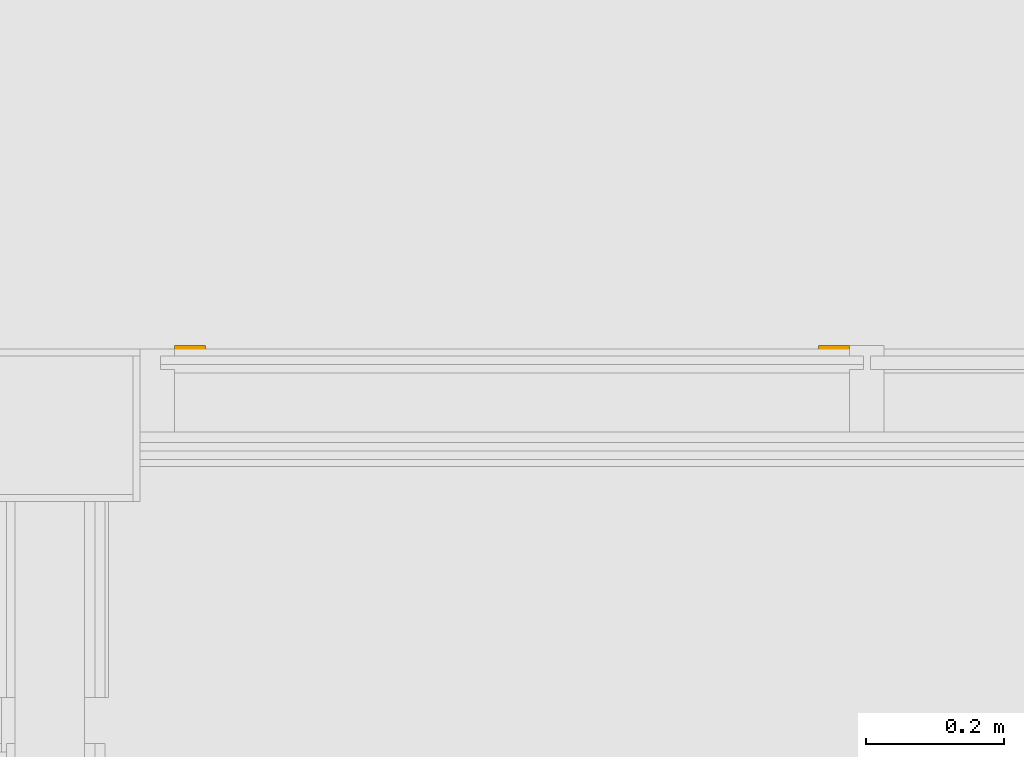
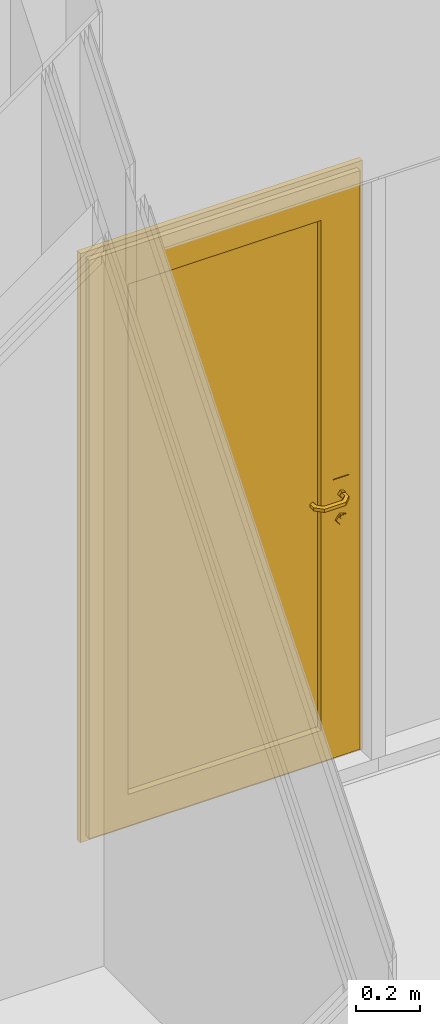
# One storey, part 247 of 260: 1 door, 1 element without a shape of its own.
"""IFC2X3 building model written with IfcOpenShell, lengths in millimetres."""

from ifc_helpers import new_model, entity, si_unit, converted_unit, derived_unit, money_unit, direction, frame, origin_with_axes, place, context, subcontext, project, spatial, open_shell, faceted_brep, surface_model, material, material_list, type_object, element, aggregate, save


model = new_model("IFC2X3")

# Units and contexts
model_context = context("Model", 3, precision=0.01, world=origin_with_axes(), true_north=direction((0.0, 1.0)))
body_context = subcontext(model_context, "Body", "Model", "MODEL_VIEW")
ifc_project = project(units=[si_unit("LENGTHUNIT", "METRE", prefix="MILLI"), si_unit("AREAUNIT", "SQUARE_METRE"), si_unit("VOLUMEUNIT", "CUBIC_METRE"), converted_unit("PLANEANGLEUNIT", "DEGREE", entity("IfcPlaneAngleMeasure", 0.0174532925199), si_unit("PLANEANGLEUNIT", "RADIAN"), dimensions=[0, 0, 0, 0, 0, 0, 0]), money_unit("EUR"), converted_unit("TIMEUNIT", "Year", entity("IfcTimeMeasure", 31556926.0), si_unit("TIMEUNIT", "SECOND"), dimensions=[0, 0, 1, 0, 0, 0, 0]), si_unit("MASSUNIT", "GRAM", prefix="KILO"), si_unit("THERMODYNAMICTEMPERATUREUNIT", "DEGREE_CELSIUS"), si_unit("LUMINOUSINTENSITYUNIT", "LUMEN"), si_unit("ENERGYUNIT", "JOULE", prefix="MEGA"), derived_unit("THERMALCONDUCTANCEUNIT", [(si_unit("POWERUNIT", "WATT"), 1), (si_unit("LENGTHUNIT", "METRE"), -1), (si_unit("THERMODYNAMICTEMPERATUREUNIT", "KELVIN"), -1)]), derived_unit("SPECIFICHEATCAPACITYUNIT", [(si_unit("ENERGYUNIT", "JOULE"), 1), (si_unit("MASSUNIT", "GRAM", prefix="KILO"), -1), (si_unit("THERMODYNAMICTEMPERATUREUNIT", "KELVIN"), -1)]), derived_unit("MASSDENSITYUNIT", [(si_unit("MASSUNIT", "GRAM", prefix="KILO"), 1), (si_unit("VOLUMEUNIT", "CUBIC_METRE"), -1)])], contexts=[model_context])

# Site, building, storey
site_placement = place(None, origin_with_axes())
site = spatial("IfcSite", under=ifc_project, at=site_placement, Name="Kolde pst 67a", CompositionType="ELEMENT")
building_placement = place(site_placement, origin_with_axes())
building = spatial("IfcBuilding", under=site, at=building_placement, Name="Riigigümnaasium", CompositionType="ELEMENT")
storey_placement = place(building_placement, origin_with_axes())
storey = spatial("IfcBuildingStorey", under=building, at=storey_placement, Name="1. korrus", CompositionType="ELEMENT", Elevation=0.0)

# Curtain wall, door
curtain_wall_type = type_object("IfcCurtainWallType", Name="Curtain Wall Type", PredefinedType="NOTDEFINED")
curtain_wall_placement = place(storey_placement, frame((68175.8878955, 24430.0011103, -4.39663905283e-06), z_axis=(0.0, 0.0, 1.0), x_axis=(1.0, 0.0, 0.0)))
curtain_wall = element("IfcCurtainWall", 1, at=curtain_wall_placement, inside=storey, type_object=curtain_wall_type, Name="KLAASSEIN")
ifc_material_1 = material(Name="_METALL - alumiinium")
ifc_material_2 = material(Name="_KLAAS - kirgas")
ifc_material_3 = material(Name="_METALL - roostevaba terasleht, harjatud, 1mm")
ifc_material_list = material_list([ifc_material_1, ifc_material_2, ifc_material_3])
door_style = type_object("IfcDoorStyle", Name="1015 x 2240 x 20", ConstructionType="NOTDEFINED", OperationType="SINGLE_SWING_RIGHT", ParameterTakesPrecedence=False, Sizeable=False)
door_placement = place(curtain_wall_placement, frame((0.0, 0.0, 1150.0), z_axis=(0.0, 0.0, 1.0), x_axis=(-1.0, 7.27337343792e-07, 0.0)))
door = element("IfcDoor", 2, at=door_placement, type_object=door_style, material=ifc_material_list, Name="Siseuks", ObjectType="DOOR", OverallHeight=2200.0, OverallWidth=975.0, context=body_context, shape_type="SurfaceModel", body=[
    faceted_brep([(-499.999998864, -20.0007455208, -1099.99999851), (-499.999995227, -25.0007455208, -1099.99999851), (-499.999995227, -25.0007455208, 1099.99999851), (-499.999998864, -20.0007455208, 1099.99999851), (-454.999998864, -20.0007127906, -1099.99999851), (-454.999995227, -25.0007127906, -1099.99999851), (-454.999995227, -25.0007127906, 1054.99999851), (-454.999998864, -20.0007127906, 1054.99999851)], [[[0, 1, 2, 3]], [[4, 5, 1, 0]], [[1, 5, 6, 2]], [[3, 2, 6, 7]], [[0, 3, 7, 4]], [[7, 6, 5, 4]]]),
    faceted_brep([(475.000013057, -20.0000363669, 1099.99999851), (475.000016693, -25.0000363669, 1099.99999851), (430.000016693, -25.000069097, 1054.99999851), (430.000013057, -20.000069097, 1054.99999851), (-499.999998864, -20.0007455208, 1099.99999851), (-499.999995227, -25.0007455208, 1099.99999851), (-454.999995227, -25.0007127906, 1054.99999851), (-454.999998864, -20.0007127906, 1054.99999851)], [[[0, 1, 2, 3]], [[4, 5, 1, 0]], [[1, 5, 6, 2]], [[3, 2, 6, 7]], [[0, 3, 7, 4]], [[7, 6, 5, 4]]]),
    faceted_brep([(475.000013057, -20.0000363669, -1099.99999851), (475.000016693, -25.0000363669, -1099.99999851), (430.000016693, -25.000069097, -1099.99999851), (430.000013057, -20.000069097, -1099.99999851), (475.000013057, -20.0000363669, 1099.99999851), (475.000016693, -25.0000363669, 1099.99999851), (430.000016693, -25.000069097, 1054.99999851), (430.000013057, -20.000069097, 1054.99999851)], [[[0, 1, 2, 3]], [[4, 5, 1, 0]], [[1, 5, 6, 2]], [[3, 2, 6, 7]], [[0, 3, 7, 4]], [[7, 6, 5, 4]]]),
    faceted_brep([(-500.000035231, 29.9992544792, -1099.99999851), (-499.999998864, -20.0007455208, -1099.99999851), (-499.999998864, -20.0007455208, 1099.99999851), (-500.000035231, 29.9992544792, 1099.99999851), (-480.000035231, 29.999269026, -1099.99999851), (-479.999998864, -20.000730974, -1099.99999851), (-479.999998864, -20.000730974, 1079.99999851), (-480.000035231, 29.999269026, 1079.99999851)], [[[0, 1, 2, 3]], [[4, 5, 1, 0]], [[1, 5, 6, 2]], [[3, 2, 6, 7]], [[0, 3, 7, 4]], [[7, 6, 5, 4]]]),
    faceted_brep([(474.99997669, 29.9999636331, 1099.99999851), (475.000013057, -20.0000363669, 1099.99999851), (455.000013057, -20.0000509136, 1079.99999851), (454.99997669, 29.9999490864, 1079.99999851), (-500.000035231, 29.9992544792, 1099.99999851), (-499.999998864, -20.0007455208, 1099.99999851), (-479.999998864, -20.000730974, 1079.99999851), (-480.000035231, 29.999269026, 1079.99999851)], [[[0, 1, 2, 3]], [[4, 5, 1, 0]], [[1, 5, 6, 2]], [[3, 2, 6, 7]], [[0, 3, 7, 4]], [[7, 6, 5, 4]]]),
    faceted_brep([(474.99997669, 29.9999636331, -1099.99999851), (475.000013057, -20.0000363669, -1099.99999851), (455.000013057, -20.0000509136, -1099.99999851), (454.99997669, 29.9999490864, -1099.99999851), (474.99997669, 29.9999636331, 1099.99999851), (475.000013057, -20.0000363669, 1099.99999851), (455.000013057, -20.0000509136, 1079.99999851), (454.99997669, 29.9999490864, 1079.99999851)], [[[0, 1, 2, 3]], [[4, 5, 1, 0]], [[1, 5, 6, 2]], [[3, 2, 6, 7]], [[0, 3, 7, 4]], [[7, 6, 5, 4]]]),
    faceted_brep([(494.999998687, 9.99997817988, -1120.00000596), (495.000013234, -10.0000218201, -1120.00000596), (-519.999979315, -10.0007600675, -1120.00000596), (-519.999993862, 9.99923993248, -1120.00000596), (474.999991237, 9.99996363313, -1099.99999851), (475.000005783, -10.0000363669, -1099.99999851), (-500.000006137, -10.0007455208, -1099.99999851), (-500.000020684, 9.99925447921, -1099.99999851)], [[[0, 1, 2, 3]], [[4, 5, 1, 0]], [[1, 5, 6, 2]], [[3, 2, 6, 7]], [[0, 3, 7, 4]], [[7, 6, 5, 4]]]),
    faceted_brep([(-519.999993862, 9.99923993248, -1120.00000596), (-519.999979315, -10.0007600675, -1120.00000596), (-519.999979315, -10.0007600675, 1120.00000596), (-519.999993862, 9.99923993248, 1120.00000596), (-500.000020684, 9.99925447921, -1099.99999851), (-500.000006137, -10.0007455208, -1099.99999851), (-500.000006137, -10.0007455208, 1099.99999851), (-500.000020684, 9.99925447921, 1099.99999851)], [[[0, 1, 2, 3]], [[4, 5, 1, 0]], [[1, 5, 6, 2]], [[3, 2, 6, 7]], [[0, 3, 7, 4]], [[7, 6, 5, 4]]]),
    faceted_brep([(-519.999993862, 9.99923993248, 1120.00000596), (-519.999979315, -10.0007600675, 1120.00000596), (495.000013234, -10.0000218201, 1120.00000596), (494.999998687, 9.99997817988, 1120.00000596), (-500.000020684, 9.99925447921, 1099.99999851), (-500.000006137, -10.0007455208, 1099.99999851), (475.000005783, -10.0000363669, 1099.99999851), (474.999991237, 9.99996363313, 1099.99999851)], [[[0, 1, 2, 3]], [[4, 5, 1, 0]], [[1, 5, 6, 2]], [[3, 2, 6, 7]], [[0, 3, 7, 4]], [[7, 6, 5, 4]]]),
    faceted_brep([(494.999998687, 9.99997817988, 1120.00000596), (495.000013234, -10.0000218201, 1120.00000596), (495.000013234, -10.0000218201, -1120.00000596), (494.999998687, 9.99997817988, -1120.00000596), (474.999991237, 9.99996363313, 1099.99999851), (475.000005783, -10.0000363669, 1099.99999851), (475.000005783, -10.0000363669, -1099.99999851), (474.999991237, 9.99996363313, -1099.99999851)], [[[0, 1, 2, 3]], [[4, 5, 1, 0]], [[1, 5, 6, 2]], [[3, 2, 6, 7]], [[0, 3, 7, 4]], [[7, 6, 5, 4]]]),
    faceted_brep([(335.000013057, -20.0001381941, -979.99999851), (335.000013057, -20.0001381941, 959.99999851), (334.99997669, 29.9998618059, 959.99999851), (334.99997669, 29.9998618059, -979.99999851), (455.000013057, -20.0000509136, -1099.99999851), (455.000013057, -20.0000509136, 1079.99999851), (454.99997669, 29.9999490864, 1079.99999851), (454.99997669, 29.9999490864, -1099.99999851)], [[[0, 1, 2, 3]], [[0, 4, 5, 1]], [[1, 5, 6, 2]], [[3, 2, 6, 7]], [[4, 0, 3, 7]], [[5, 4, 7, 6]]]),
    faceted_brep([(-479.999998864, -20.000730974, -1099.99999851), (-479.999998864, -20.000730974, 1079.99999851), (-480.000035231, 29.999269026, 1079.99999851), (-480.000035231, 29.999269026, -1099.99999851), (-359.999998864, -20.0006436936, -979.99999851), (-359.999998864, -20.0006436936, 959.99999851), (-360.000035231, 29.9993563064, 959.99999851), (-360.000035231, 29.9993563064, -979.99999851)], [[[0, 1, 2, 3]], [[0, 4, 5, 1]], [[1, 5, 6, 2]], [[3, 2, 6, 7]], [[4, 0, 3, 7]], [[5, 4, 7, 6]]]),
    faceted_brep([(-479.999998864, -20.000730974, -1099.99999851), (-359.999998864, -20.0006436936, -979.99999851), (-360.000035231, 29.9993563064, -979.99999851), (-480.000035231, 29.999269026, -1099.99999851), (455.000013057, -20.0000509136, -1099.99999851), (335.000013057, -20.0001381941, -979.99999851), (334.99997669, 29.9998618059, -979.99999851), (454.99997669, 29.9999490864, -1099.99999851)], [[[0, 1, 2, 3]], [[0, 4, 5, 1]], [[1, 5, 6, 2]], [[3, 2, 6, 7]], [[4, 0, 3, 7]], [[5, 4, 7, 6]]]),
    faceted_brep([(455.000013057, -20.0000509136, 1079.99999851), (335.000013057, -20.0001381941, 959.99999851), (334.99997669, 29.9998618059, 959.99999851), (454.99997669, 29.9999490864, 1079.99999851), (-479.999998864, -20.000730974, 1079.99999851), (-359.999998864, -20.0006436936, 959.99999851), (-360.000035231, 29.9993563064, 959.99999851), (-480.000035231, 29.999269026, 1079.99999851)], [[[0, 1, 2, 3]], [[0, 4, 5, 1]], [[1, 5, 6, 2]], [[3, 2, 6, 7]], [[4, 0, 3, 7]], [[5, 4, 7, 6]]]),
    faceted_brep([(335.000005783, -10.0001381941, -979.99999851), (-360.000006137, -10.0006436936, -979.99999851), (-360.000017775, 5.99935630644, -979.99999851), (334.999994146, 5.9998618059, -979.99999851), (335.000005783, -10.0001381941, 959.99999851), (-360.000006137, -10.0006436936, 959.99999851), (-360.000017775, 5.99935630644, 959.99999851), (334.999994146, 5.9998618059, 959.99999851)], [[[0, 1, 2, 3]], [[0, 4, 5, 1]], [[1, 5, 6, 2]], [[3, 2, 6, 7]], [[4, 0, 3, 7]], [[5, 4, 7, 6]]]),
    faceted_brep([(-458.500035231, 29.9992846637, -39.9999985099), (-401.500035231, 29.9993261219, -39.9999985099), (-401.500037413, 32.9993261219, -39.9999985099), (-458.500037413, 32.9992846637, -39.9999985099), (-458.500035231, 29.9992846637, -229.99999851), (-401.500035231, 29.9993261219, -229.99999851), (-401.500037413, 32.9993261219, -229.99999851), (-458.500037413, 32.9992846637, -229.99999851)], [[[0, 1, 2, 3]], [[0, 4, 5, 1]], [[1, 5, 6, 2]], [[3, 2, 6, 7]], [[4, 0, 3, 7]], [[5, 4, 7, 6]]]),
    faceted_brep([(-426.291840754, 42.9993080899, -111.412676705), (-418.000044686, 42.9993141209, -99.9999985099), (-417.000037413, 32.9993148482, -99.9999985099), (-425.982816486, 32.9993083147, -112.363733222), (-439.708248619, 42.9992983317, -107.053421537), (-439.708248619, 42.9992983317, -92.9465754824), (-426.291840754, 42.9993080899, -88.5873203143), (-425.982816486, 32.9993083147, -87.636263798), (-440.51725834, 32.9992977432, -92.3587902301), (-440.51725834, 32.9992977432, -107.64120679)], [[[0, 1, 2, 3]], [[1, 0, 4, 5, 6]], [[1, 6, 7, 2]], [[2, 7, 8, 9, 3]], [[4, 0, 3, 9]], [[5, 4, 9, 8]], [[6, 5, 8, 7]]]),
    faceted_brep([(-423.819700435, 36.999309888, -214.021128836), (-410.000040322, 36.9993199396, -194.99999851), (-408.000037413, 32.9993213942, -194.99999851), (-423.201663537, 32.9993103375, -215.923241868), (-446.18038021, 36.9992936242, -206.755703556), (-446.18038021, 36.9992936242, -183.244293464), (-423.819700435, 36.999309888, -175.978868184), (-423.201663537, 32.9993103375, -174.076755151), (-447.798411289, 32.9992924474, -182.068722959), (-447.798411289, 32.9992924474, -207.93127406)], [[[0, 1, 2, 3]], [[1, 0, 4, 5, 6]], [[1, 6, 7, 2]], [[2, 7, 8, 9, 3]], [[4, 0, 3, 9]], [[5, 4, 9, 8]], [[6, 5, 8, 7]]]),
    faceted_brep([(-427.836922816, 38.9993069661, -192.657394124), (-423.000041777, 38.9993104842, -185.99999851), (-422.000040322, 36.9993112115, -185.99999851), (-427.527904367, 36.9993071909, -193.60845064), (-435.663160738, 38.9993012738, -190.114495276), (-435.663160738, 38.9993012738, -181.885501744), (-427.836922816, 38.9993069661, -179.342602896), (-427.527904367, 36.9993071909, -178.39154638), (-436.472176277, 36.9993006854, -181.297716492), (-436.472176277, 36.9993006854, -190.702280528)], [[[0, 1, 2, 3]], [[1, 0, 4, 5, 6]], [[1, 6, 7, 2]], [[2, 7, 8, 9, 3]], [[4, 0, 3, 9]], [[5, 4, 9, 8]], [[6, 5, 8, 7]]]),
    surface_model("IfcShellBasedSurfaceModel", [(-420.000044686, 42.9993126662, -99.9999985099), (-426.909874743, 42.9993076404, -109.510563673), (-426.909888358, 61.7193173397, -109.510563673), (-420.00005622, 58.8571770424, -99.9999985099), (-438.09021463, 42.9992995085, -105.877851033), (-438.090231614, 66.3503576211, -105.877851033), (-408.720081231, 79.9091509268, -109.510563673), (-405.857930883, 72.9993229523, -99.9999985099), (-426.909874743, 42.9993076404, -90.4894333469), (-426.909888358, 61.7193173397, -90.4894333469), (-438.09021463, 42.9992995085, -94.122145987), (-438.090231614, 66.3503576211, -94.122145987), (-413.351137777, 91.0894874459, -105.877851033), (-341.280061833, 79.9091999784, -109.510563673), (-344.14220213, 72.9993678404, -99.9999985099), (-408.720081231, 79.9091509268, -90.4894333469), (-413.351137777, 91.0894874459, -94.122145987), (-336.649021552, 91.0895432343, -105.877851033), (-323.090228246, 61.7193928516, -109.510563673), (-330.00005622, 58.8572425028, -99.9999985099), (-341.280061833, 79.9091999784, -90.4894333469), (-336.649021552, 91.0895432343, -94.122145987), (-311.909891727, 66.3504493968, -105.877851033), (-323.09021463, 42.9993831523, -109.510563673), (-330.000044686, 42.9993781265, -99.9999985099), (-323.090228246, 61.7193928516, -90.4894333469), (-311.909891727, 66.3504493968, -94.122145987), (-311.909874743, 42.9993912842, -105.877851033), (-311.909874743, 42.9993912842, -94.122145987), (-323.09021463, 42.9993831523, -90.4894333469)], [open_shell([[[0, 1, 2, 3]], [[1, 4, 5, 2]], [[3, 2, 6, 7]], [[8, 0, 3, 9]], [[4, 10, 11, 5]], [[2, 5, 12, 6]], [[7, 6, 13, 14]], [[9, 3, 7, 15]], [[10, 8, 9, 11]], [[5, 11, 16, 12]], [[6, 12, 17, 13]], [[14, 13, 18, 19]], [[15, 7, 14, 20]], [[11, 9, 15, 16]], [[12, 16, 21, 17]], [[13, 17, 22, 18]], [[19, 18, 23, 24]], [[20, 14, 19, 25]], [[16, 15, 20, 21]], [[17, 21, 26, 22]], [[18, 22, 27, 23]], [[24, 23, 27, 28, 29]], [[25, 19, 24, 29]], [[21, 20, 25, 26]], [[22, 26, 28, 27]], [[26, 25, 29, 28]]])]),
    faceted_brep([(-458.499998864, -20.0007153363, -39.9999985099), (-458.499996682, -23.0007153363, -39.9999985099), (-401.499996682, -23.0006738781, -39.9999985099), (-401.499998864, -20.0006738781, -39.9999985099), (-458.499998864, -20.0007153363, -229.99999851), (-458.499996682, -23.0007153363, -229.99999851), (-401.499996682, -23.0006738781, -229.99999851), (-401.499998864, -20.0006738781, -229.99999851)], [[[0, 1, 2, 3]], [[4, 5, 1, 0]], [[1, 5, 6, 2]], [[3, 2, 6, 7]], [[0, 3, 7, 4]], [[7, 6, 5, 4]]]),
    faceted_brep([(-426.291785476, -33.0006919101, -111.412676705), (-425.982775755, -23.0006916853, -112.363733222), (-416.999996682, -23.0006851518, -99.9999985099), (-417.999989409, -33.0006858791, -99.9999985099), (-439.708193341, -33.0007016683, -107.053421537), (-440.517217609, -23.0007022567, -107.64120679), (-440.517217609, -23.0007022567, -92.3587902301), (-425.982775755, -23.0006916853, -87.636263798), (-426.291785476, -33.0006919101, -88.5873203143), (-439.708193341, -33.0007016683, -92.9465754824)], [[[0, 1, 2, 3]], [[4, 5, 1, 0]], [[2, 1, 5, 6, 7]], [[3, 2, 7, 8]], [[3, 8, 9, 4, 0]], [[9, 6, 5, 4]], [[8, 7, 6, 9]]]),
    faceted_brep([(-423.819653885, -27.000690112, -214.021128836), (-423.201622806, -23.0006896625, -215.923241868), (-407.999996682, -23.0006786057, -194.99999851), (-409.999993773, -27.0006800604, -194.99999851), (-446.18033366, -27.0007063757, -206.755703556), (-447.798370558, -23.0007075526, -207.93127406), (-447.798370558, -23.0007075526, -182.068722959), (-423.201622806, -23.0006896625, -174.076755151), (-423.819653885, -27.000690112, -175.978868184), (-446.18033366, -27.0007063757, -183.244293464)], [[[0, 1, 2, 3]], [[4, 5, 1, 0]], [[2, 1, 5, 6, 7]], [[3, 2, 7, 8]], [[3, 8, 9, 4, 0]], [[9, 6, 5, 4]], [[8, 7, 6, 9]]]),
    faceted_brep([(-427.836873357, -29.0006930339, -192.657394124), (-427.527857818, -27.0006928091, -193.60845064), (-421.999993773, -27.0006887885, -185.99999851), (-422.999992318, -29.0006895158, -185.99999851), (-435.663111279, -29.0006987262, -190.114495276), (-436.472129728, -27.0006993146, -190.702280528), (-436.472129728, -27.0006993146, -181.297716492), (-427.527857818, -27.0006928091, -178.39154638), (-427.836873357, -29.0006930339, -179.342602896), (-435.663111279, -29.0006987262, -181.885501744)], [[[0, 1, 2, 3]], [[4, 5, 1, 0]], [[2, 1, 5, 6, 7]], [[3, 2, 7, 8]], [[3, 8, 9, 4, 0]], [[9, 6, 5, 4]], [[8, 7, 6, 9]]]),
    surface_model("IfcShellBasedSurfaceModel", [(-419.999989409, -33.0006873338, -99.9999985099), (-419.999977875, -48.8585517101, -99.9999985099), (-426.909805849, -51.7207020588, -109.510563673), (-426.909819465, -33.0006923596, -109.510563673), (-426.909819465, -33.0006923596, -90.4894333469), (-426.909805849, -51.7207020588, -90.4894333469), (-405.857831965, -63.0006770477, -99.9999985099), (-408.719972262, -69.9105091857, -109.510563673), (-438.090142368, -56.351758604, -105.877851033), (-438.090159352, -33.0007004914, -105.877851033), (-438.090159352, -33.0007004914, -94.122145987), (-438.090142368, -56.351758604, -94.122145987), (-408.719972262, -69.9105091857, -90.4894333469), (-344.142103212, -63.0006321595, -99.9999985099), (-341.279952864, -69.910460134, -109.510563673), (-413.351012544, -81.0908524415, -105.877851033), (-413.351012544, -81.0908524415, -94.122145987), (-341.279952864, -69.910460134, -90.4894333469), (-329.999977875, -48.8584862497, -99.9999985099), (-323.090145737, -51.7206265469, -109.510563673), (-336.648896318, -81.0907966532, -105.877851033), (-336.648896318, -81.0907966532, -94.122145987), (-323.090145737, -51.7206265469, -90.4894333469), (-329.999989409, -33.0006218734, -99.9999985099), (-323.090159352, -33.0006168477, -109.510563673), (-311.909802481, -56.3516668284, -105.877851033), (-311.909802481, -56.3516668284, -94.122145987), (-323.090159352, -33.0006168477, -90.4894333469), (-311.909819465, -33.0006087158, -94.122145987), (-311.909819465, -33.0006087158, -105.877851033)], [open_shell([[[0, 1, 2, 3]], [[4, 5, 1, 0]], [[1, 6, 7, 2]], [[3, 2, 8, 9]], [[10, 11, 5, 4]], [[5, 12, 6, 1]], [[6, 13, 14, 7]], [[2, 7, 15, 8]], [[9, 8, 11, 10]], [[11, 16, 12, 5]], [[12, 17, 13, 6]], [[13, 18, 19, 14]], [[7, 14, 20, 15]], [[8, 15, 16, 11]], [[16, 21, 17, 12]], [[17, 22, 18, 13]], [[18, 23, 24, 19]], [[14, 19, 25, 20]], [[15, 20, 21, 16]], [[21, 26, 22, 17]], [[22, 27, 23, 18]], [[23, 27, 28, 29, 24]], [[19, 24, 29, 25]], [[20, 25, 26, 21]], [[26, 28, 27, 22]], [[25, 29, 28, 26]]])]),
])
aggregate(curtain_wall, [door])

save(model, "model.ifc")
